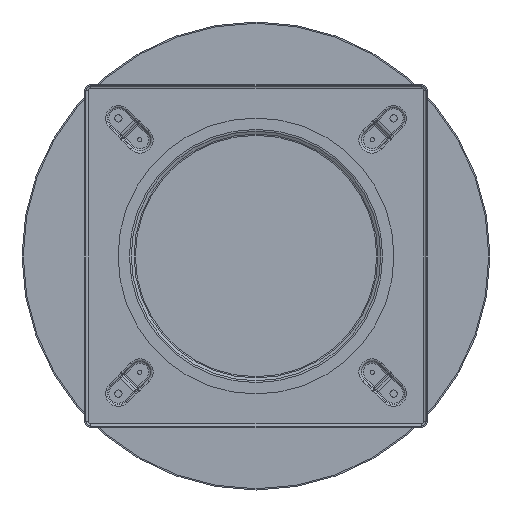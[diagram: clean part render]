
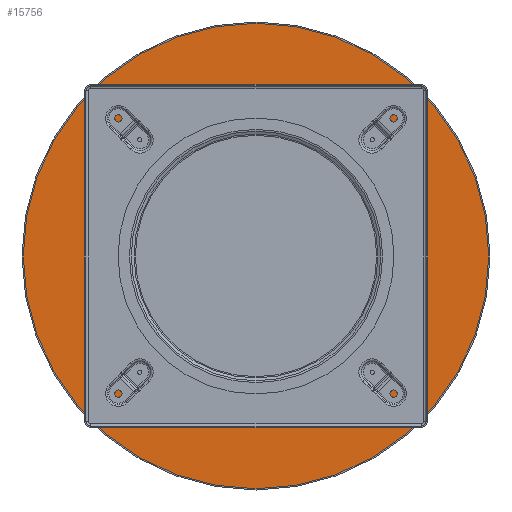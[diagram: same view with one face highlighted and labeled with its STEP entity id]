
A CAD part, front view. The second image highlights one B-rep face of the part: STEP entity #15756.
In plain terms, the highlighted conical face has half-angle 89.989 degrees and reference radius 382.5 mm.
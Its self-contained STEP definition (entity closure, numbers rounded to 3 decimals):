
#57=CONICAL_SURFACE('',#16705,382.5,1.571);
#1359=LINE('',#34029,#2122);
#2122=VECTOR('',#19065,382.5);
#3949=FACE_OUTER_BOUND('',#4862,.T.);
#4862=EDGE_LOOP('',(#12664,#12665,#12666,#12667,#12668));
#5187=CIRCLE('',#16082,275.);
#5320=CIRCLE('',#16706,380.499);
#5321=CIRCLE('',#16707,380.499);
#5603=VERTEX_POINT('',#20411);
#6686=VERTEX_POINT('',#34028);
#6687=VERTEX_POINT('',#34030);
#7102=EDGE_CURVE('',#5603,#5603,#5187,.T.);
#8727=EDGE_CURVE('',#5603,#6686,#1359,.T.);
#8728=EDGE_CURVE('',#6687,#6686,#5320,.T.);
#8729=EDGE_CURVE('',#6686,#6687,#5321,.T.);
#12664=ORIENTED_EDGE('',*,*,#7102,.T.);
#12665=ORIENTED_EDGE('',*,*,#8727,.T.);
#12666=ORIENTED_EDGE('',*,*,#8728,.F.);
#12667=ORIENTED_EDGE('',*,*,#8729,.F.);
#12668=ORIENTED_EDGE('',*,*,#8727,.F.);
#15756=ADVANCED_FACE('',(#3949),#57,.T.);
#16082=AXIS2_PLACEMENT_3D('',#20412,#17245,#17246);
#16705=AXIS2_PLACEMENT_3D('',#34027,#19063,#19064);
#16706=AXIS2_PLACEMENT_3D('',#34031,#19066,#19067);
#16707=AXIS2_PLACEMENT_3D('',#34032,#19068,#19069);
#17245=DIRECTION('center_axis',(0.,1.,0.));
#17246=DIRECTION('ref_axis',(1.,0.,0.));
#19063=DIRECTION('center_axis',(0.,1.,0.));
#19064=DIRECTION('ref_axis',(1.,0.,0.));
#19065=DIRECTION('',(-1.,0.,0.));
#19066=DIRECTION('center_axis',(0.,1.,0.));
#19067=DIRECTION('ref_axis',(1.,0.,0.));
#19068=DIRECTION('center_axis',(0.,1.,0.));
#19069=DIRECTION('ref_axis',(1.,0.,0.));
#20411=CARTESIAN_POINT('',(405.641,480.264,407.249));
#20412=CARTESIAN_POINT('Origin',(680.641,480.264,407.249));
#34027=CARTESIAN_POINT('Origin',(680.641,480.283,407.249));
#34028=CARTESIAN_POINT('',(300.142,480.283,407.249));
#34029=CARTESIAN_POINT('',(298.141,480.283,407.249));
#34030=CARTESIAN_POINT('',(680.641,480.283,26.75));
#34031=CARTESIAN_POINT('Origin',(680.641,480.283,407.249));
#34032=CARTESIAN_POINT('Origin',(680.641,480.283,407.249));
